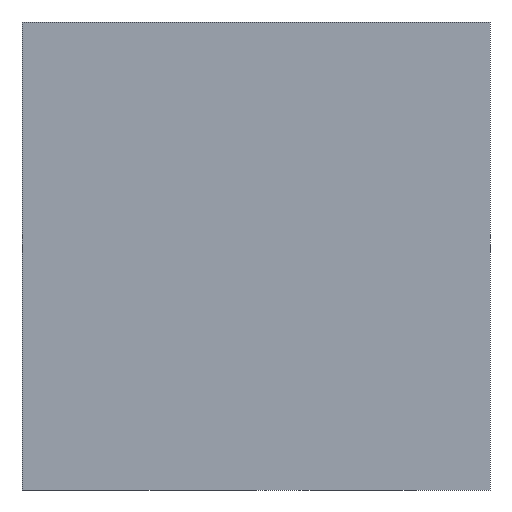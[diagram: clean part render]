
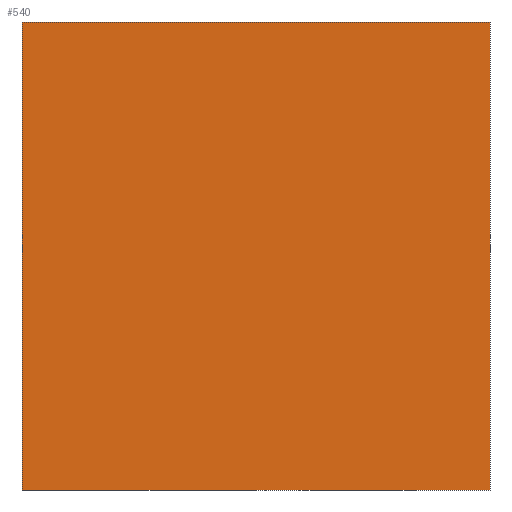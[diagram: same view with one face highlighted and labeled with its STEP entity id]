
A CAD part, left-side view. The second image highlights one B-rep face of the part: STEP entity #540.
In plain terms, the highlighted planar face has unit normal (-1, 0, 0).
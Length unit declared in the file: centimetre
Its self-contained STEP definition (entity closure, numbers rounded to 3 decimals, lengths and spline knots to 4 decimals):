
#9 = EDGE_LOOP ( 'NONE', ( #724, #648, #445, #337 ) ) ;
#28 = DIRECTION ( 'NONE',  ( 0., -1., 0. ) ) ;
#30 = VECTOR ( 'NONE', #811, 100. ) ;
#33 = DIRECTION ( 'NONE',  ( 1., 0., 0. ) ) ;
#40 = FACE_OUTER_BOUND ( 'NONE', #9, .T. ) ;
#45 = DIRECTION ( 'NONE',  ( 0., 0., -1. ) ) ;
#153 = DIRECTION ( 'NONE',  ( 0., 0., -1. ) ) ;
#187 = CARTESIAN_POINT ( 'NONE',  ( 0., 0., 0. ) ) ;
#211 = LINE ( 'NONE', #611, #568 ) ;
#213 = CARTESIAN_POINT ( 'NONE',  ( 0., 0., 1000. ) ) ;
#221 = CARTESIAN_POINT ( 'NONE',  ( 0., 1000., 0. ) ) ;
#231 = LINE ( 'NONE', #382, #615 ) ;
#255 = VECTOR ( 'NONE', #153, 100. ) ;
#331 = EDGE_CURVE ( 'NONE', #785, #600, #211, .T. ) ;
#337 = ORIENTED_EDGE ( 'NONE', *, *, #551, .T. ) ;
#367 = LINE ( 'NONE', #221, #30 ) ;
#373 = PLANE ( 'NONE',  #451 ) ;
#382 = CARTESIAN_POINT ( 'NONE',  ( 0., 1000., 1000. ) ) ;
#445 = ORIENTED_EDGE ( 'NONE', *, *, #331, .F. ) ;
#450 = CARTESIAN_POINT ( 'NONE',  ( 0., 1000., 0. ) ) ;
#451 = AXIS2_PLACEMENT_3D ( 'NONE', #777, #33, #637 ) ;
#465 = EDGE_CURVE ( 'NONE', #632, #587, #367, .T. ) ;
#483 = EDGE_CURVE ( 'NONE', #600, #587, #546, .T. ) ;
#540 = ADVANCED_FACE ( 'NONE', ( #40 ), #373, .F. ) ;
#546 = LINE ( 'NONE', #213, #255 ) ;
#551 = EDGE_CURVE ( 'NONE', #785, #632, #231, .T. ) ;
#568 = VECTOR ( 'NONE', #28, 100. ) ;
#587 = VERTEX_POINT ( 'NONE', #187 ) ;
#600 = VERTEX_POINT ( 'NONE', #642 ) ;
#611 = CARTESIAN_POINT ( 'NONE',  ( 0., 1000., 1000. ) ) ;
#615 = VECTOR ( 'NONE', #45, 100. ) ;
#632 = VERTEX_POINT ( 'NONE', #450 ) ;
#637 = DIRECTION ( 'NONE',  ( 0., 0., -1. ) ) ;
#642 = CARTESIAN_POINT ( 'NONE',  ( 0., 0., 1000. ) ) ;
#648 = ORIENTED_EDGE ( 'NONE', *, *, #483, .F. ) ;
#724 = ORIENTED_EDGE ( 'NONE', *, *, #465, .T. ) ;
#730 = CARTESIAN_POINT ( 'NONE',  ( 0., 1000., 1000. ) ) ;
#777 = CARTESIAN_POINT ( 'NONE',  ( 0., 1000., 1000. ) ) ;
#785 = VERTEX_POINT ( 'NONE', #730 ) ;
#811 = DIRECTION ( 'NONE',  ( 0., -1., 0. ) ) ;
